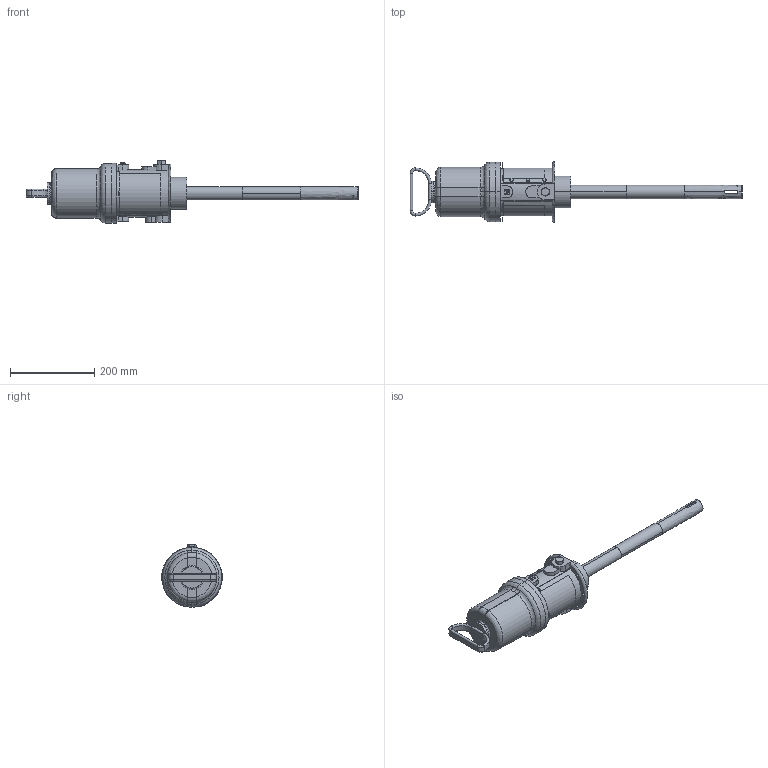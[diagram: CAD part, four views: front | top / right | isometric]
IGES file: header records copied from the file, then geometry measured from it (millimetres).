
Start section:  PTC IGES file: 239877-en-zab.igs
Global section: file name: 239877-en-zab.igs; native system: Creo Parametric by PTC Inc.; preprocessor: 2023424; author: qtmwp1; organization: Unknown; date: 20240523.114912; units: inch
Bounding box: 787.96 x 143.65 x 147.83 mm (x, y, z)
Surface area: 266034 mm2 (no closed solid volume)
Topology: 0 solids, 0 shells, 266 faces, 1302 edges, 1302 vertices
Faces by surface type: revolution 163, bspline 103
